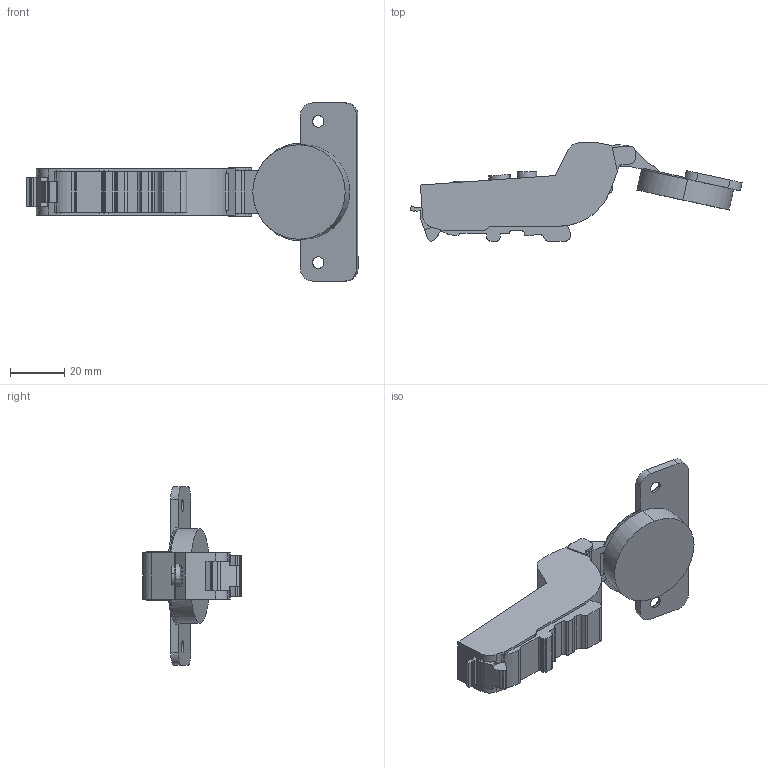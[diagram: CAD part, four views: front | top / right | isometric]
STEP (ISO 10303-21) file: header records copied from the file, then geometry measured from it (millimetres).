
FILE_DESCRIPTION (( 'STEP AP203' ), '1' );
FILE_NAME ('C81C8Q7FAB -DTC 3D open.STEP', '2024-11-30T00:26:45', ( '微软用户' ), ( '微软中国' ), 'SwSTEP 2.0', 'SolidWorks 2021', '' );
FILE_SCHEMA (( 'CONFIG_CONTROL_DESIGN' ));
Length unit declared in the file: millimetre
Products named in the file (1): C81C8Q7FAB -DTC 3D open
Bounding box: 122.28 x 36.34 x 65.6 mm (x, y, z)
Volume: 39485 mm3; surface area: 12266.5 mm2
Topology: 1 solids, 1 shells, 200 faces, 563 edges, 370 vertices
Faces by surface type: plane 97, cylinder 87, torus 12, cone 4
Entity records: 6595 total; most frequent: CARTESIAN_POINT 1179, DIRECTION 1159, ORIENTED_EDGE 1126, EDGE_CURVE 563, AXIS2_PLACEMENT_3D 410, VERTEX_POINT 370, VECTOR 339, LINE 339
